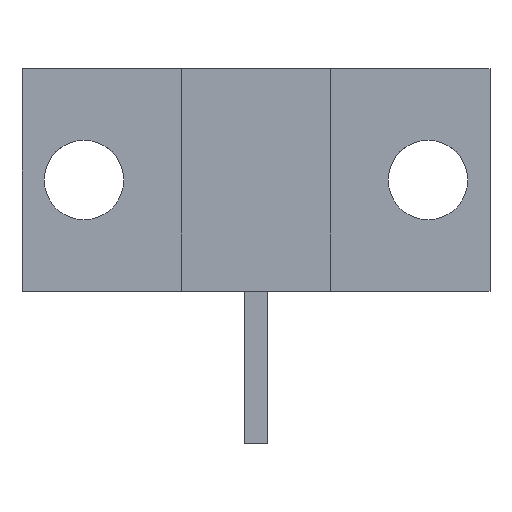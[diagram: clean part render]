
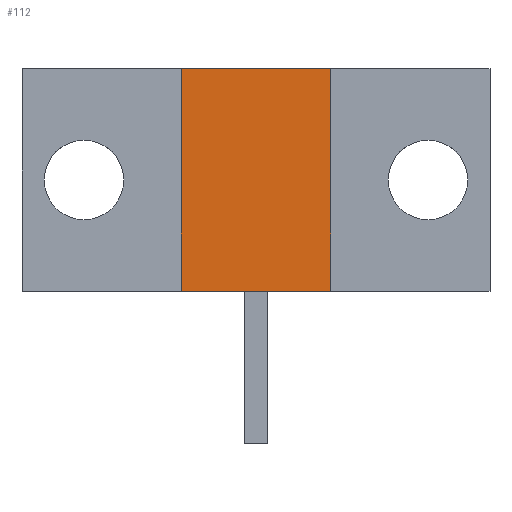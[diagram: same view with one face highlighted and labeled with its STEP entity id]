
A CAD part, top view. The second image highlights one B-rep face of the part: STEP entity #112.
In plain terms, the highlighted planar face has unit normal (0, 0, 1).
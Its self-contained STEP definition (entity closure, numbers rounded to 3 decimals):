
#112=ADVANCED_FACE('',(#255),#257,.T.);
#255=FACE_BOUND('',#256,.T.);
#256=EDGE_LOOP('',(#376,#377,#378,#379));
#257=PLANE('',#258);
#258=AXIS2_PLACEMENT_3D('',#259,#260,#261);
#259=CARTESIAN_POINT('',(0.,0.,3.7));
#260=DIRECTION('',(0.,0.,1.));
#261=DIRECTION('',(-1.,0.,0.));
#376=ORIENTED_EDGE('',*,*,#425,.T.);
#377=ORIENTED_EDGE('',*,*,#445,.T.);
#378=ORIENTED_EDGE('',*,*,#447,.T.);
#379=ORIENTED_EDGE('',*,*,#448,.T.);
#425=EDGE_CURVE('',#467,#465,#468,.T.);
#445=EDGE_CURVE('',#465,#501,#503,.T.);
#447=EDGE_CURVE('',#501,#505,#506,.T.);
#448=EDGE_CURVE('',#505,#467,#507,.T.);
#465=VERTEX_POINT('',#533);
#467=VERTEX_POINT('',#537);
#468=LINE('',#538,#539);
#501=VERTEX_POINT('',#609);
#503=LINE('',#613,#614);
#505=VERTEX_POINT('',#619);
#506=LINE('',#620,#621);
#507=LINE('',#623,#624);
#533=CARTESIAN_POINT('',(3.2,-4.75,3.7));
#537=CARTESIAN_POINT('',(-3.2,-4.75,3.7));
#538=CARTESIAN_POINT('',(-3.2,-4.75,3.7));
#539=VECTOR('',#540,1.);
#540=DIRECTION('',(1.,0.,0.));
#609=CARTESIAN_POINT('',(3.2,4.75,3.7));
#613=CARTESIAN_POINT('',(3.2,-4.75,3.7));
#614=VECTOR('',#615,1.);
#615=DIRECTION('',(0.,1.,0.));
#619=CARTESIAN_POINT('',(-3.2,4.75,3.7));
#620=CARTESIAN_POINT('',(3.2,4.75,3.7));
#621=VECTOR('',#622,1.);
#622=DIRECTION('',(-1.,0.,0.));
#623=CARTESIAN_POINT('',(-3.2,4.75,3.7));
#624=VECTOR('',#625,1.);
#625=DIRECTION('',(0.,-1.,0.));
